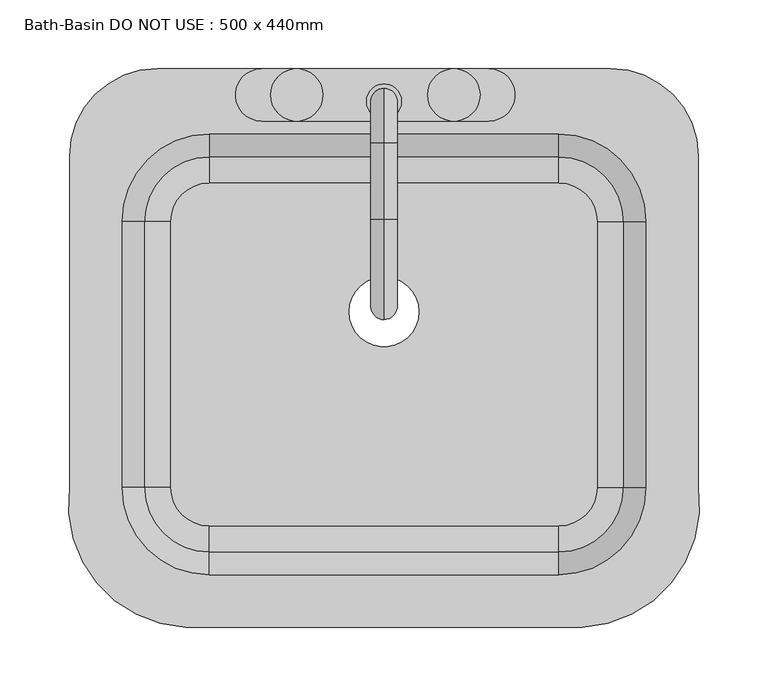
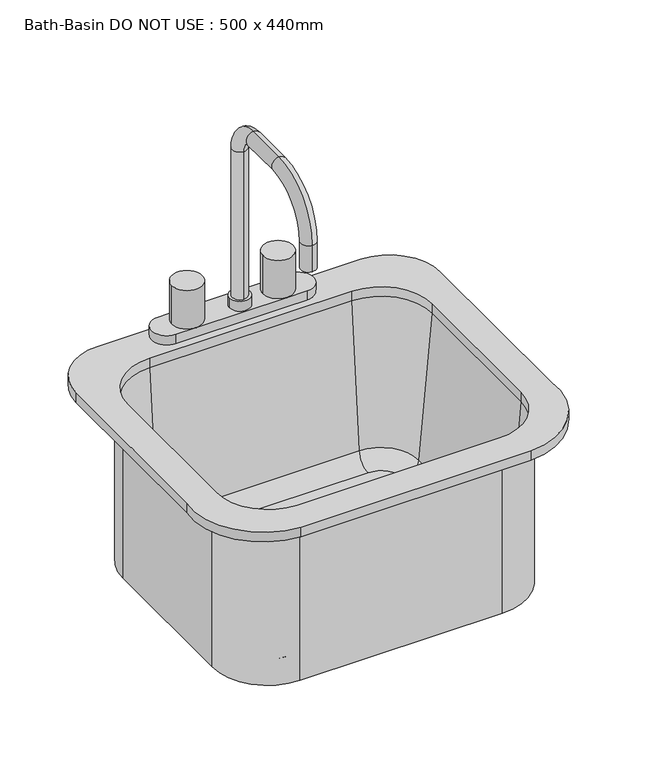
"""IFC4 building model written with IfcOpenShell, lengths in millimetres: flow terminal geometry, Bath-Basin DO NOT USE : 500 x 440mm."""

from ifc_helpers import new_model, si_unit, point, frame, origin, place, context, project, spatial, polyline, circle_curve, ellipse_curve, trimmed, source, transform, mapped, element, save
from ifc_brep_helpers import plane_surface, cylinder_surface, revolved_surface, advanced_brep


def bath_basin_do_not_use_500_x_440mm_69736ad6(model_context):
    return source(origin(), model_context, "Body", "AdvancedBrep", [
        advanced_brep(
        [(212.5392406, 69.0204011, 546.1), (142.6892406, 138.8704011, 546.1), (142.6892406, 138.8704011, 762.0), (212.5392406, 69.0204011, 762.0), (212.5392406, -124.6545989, 546.1), (142.6892406, -194.5045989, 546.1), (-111.3107595, -194.5045989, 546.1), (-181.1607595, -124.6545989, 546.1), (-181.1607595, 69.0204011, 546.1), (-111.3107595, 138.8704011, 546.1), (-9.7107594, 3.175, 546.1), (41.0892406, 3.175, 546.1), (170.6776588, 69.0204011, 555.625), (142.6892406, 97.0088193, 555.625), (-111.3107595, 97.0088193, 555.625), (-139.2991777, 69.0204011, 555.625), (-139.2991777, -124.6545989, 555.625), (-111.3107595, -152.6430171, 555.625), (142.6892406, -152.6430171, 555.625), (170.6776588, -124.6545989, 555.625), (-9.7107594, 3.175, 555.625), (41.0892406, 3.175, 555.625), (189.6551678, 69.0204011, 573.0146831), (142.6892406, 115.9863283, 573.0146831), (206.1892406, 69.0204011, 762.0), (142.6892406, 132.5204011, 762.0), (212.5392406, -124.6545989, 762.0), (189.6551678, -124.6545989, 573.0146831), (206.1892406, -124.6545989, 762.0), (142.6892406, -194.5045989, 762.0), (142.6892406, -171.6205261, 573.0146831), (142.6892406, -188.1545989, 762.0), (-111.3107595, -194.5045989, 762.0), (-111.3107595, -171.6205261, 573.0146831), (-111.3107595, -188.1545989, 762.0), (-181.1607595, -124.6545989, 762.0), (-158.2766867, -124.6545989, 573.0146831), (-174.8107595, -124.6545989, 762.0), (-181.1607595, 69.0204011, 762.0), (-158.2766867, 69.0204011, 573.0146831), (-174.8107595, 69.0204011, 762.0), (-111.3107595, 138.8704011, 762.0), (-111.3107595, 115.9863283, 573.0146831), (-111.3107595, 132.5204011, 762.0), (-128.5606924, -226.2545989, 774.7), (159.9391735, -226.2545989, 774.7), (244.2892406, -124.6545989, 774.7), (244.2892406, 116.6454011, 774.7), (180.7892406, 180.1454011, 774.7), (-149.4107594, 180.1454011, 774.7), (-212.9107594, 116.6454011, 774.7), (-212.9107594, -124.6545982, 774.7), (142.6892406, 132.5204011, 774.7), (206.1892406, 69.0204011, 774.7), (206.1892406, -124.6545989, 774.7), (142.6892406, -188.1545989, 774.7), (-111.3107595, -188.1545989, 774.7), (-174.8107595, -124.6545989, 774.7), (-174.8107595, 69.0204011, 774.7), (-111.3107595, 132.5204011, 774.7), (-128.5606924, -226.2545989, 762.0), (-212.9107594, -124.6545982, 762.0), (-212.9107594, 116.6454011, 762.0), (-149.4107594, 180.1454011, 762.0), (180.7892406, 180.1454011, 762.0), (244.2892406, 116.6454011, 762.0), (244.2892406, -124.6545989, 762.0), (159.9391735, -226.2545989, 762.0)],
        [
            (0, 1, circle_curve(frame((142.6892406, 69.0204011, 546.1), z_axis=(0.0, 0.0, 1.0), x_axis=(0.0, 1.0, 0.0)), 69.85)),
            (1, 2),
            (2, 3, circle_curve(frame((142.6892406, 69.0204011, 762.0), z_axis=(0.0, 0.0, -1.0), x_axis=(0.0, 1.0, 0.0)), 69.85)),
            (3, 0),
            (0, 4),
            (4, 5, circle_curve(frame((142.6892406, -124.6545989, 546.1), z_axis=(0.0, 0.0, -1.0), x_axis=(1.0, 0.0, 0.0)), 69.85)),
            (5, 6),
            (6, 7, circle_curve(frame((-111.3107595, -124.6545989, 546.1), z_axis=(0.0, 0.0, -1.0), x_axis=(0.0, -1.0, 0.0)), 69.85)),
            (7, 8),
            (8, 9, circle_curve(frame((-111.3107595, 69.0204011, 546.1), z_axis=(0.0, 0.0, -1.0), x_axis=(-1.0, 0.0, 0.0)), 69.85)),
            (9, 1),
            (10, 11, circle_curve(frame((15.6892406, 3.175, 546.1), z_axis=(0.0, 0.0, 1.0), x_axis=(1.0, 0.0, 0.0)), 25.4)),
            (11, 10, circle_curve(frame((15.6892406, 3.175, 546.1), z_axis=(0.0, 0.0, 1.0), x_axis=(1.0, 0.0, 0.0)), 25.4)),
            (12, 13, circle_curve(frame((142.6892406, 69.0204011, 555.625), z_axis=(0.0, 0.0, 1.0), x_axis=(0.0, 1.0, 0.0)), 27.9884182)),
            (13, 14),
            (14, 15, circle_curve(frame((-111.3107595, 69.0204011, 555.625), z_axis=(0.0, 0.0, 1.0), x_axis=(-1.0, 0.0, 0.0)), 27.9884182)),
            (15, 16),
            (16, 17, circle_curve(frame((-111.3107595, -124.6545989, 555.625), z_axis=(0.0, 0.0, 1.0), x_axis=(0.0, -1.0, 0.0)), 27.9884182)),
            (17, 18),
            (18, 19, circle_curve(frame((142.6892406, -124.6545989, 555.625), z_axis=(0.0, 0.0, 1.0), x_axis=(1.0, 0.0, 0.0)), 27.9884182)),
            (19, 12),
            (20, 21, circle_curve(frame((15.6892406, 3.175, 555.625), z_axis=(0.0, 0.0, -1.0), x_axis=(1.0, 0.0, 0.0)), 25.4)),
            (21, 20, circle_curve(frame((15.6892406, 3.175, 555.625), z_axis=(0.0, 0.0, -1.0), x_axis=(1.0, 0.0, 0.0)), 25.4)),
            (12, 22, circle_curve(frame((170.6776588, 69.0204011, 574.675), z_axis=(0.0, -1.0, 0.0), x_axis=(1.0, 0.0, 0.0)), 19.05)),
            (22, 23, circle_curve(frame((142.6892406, 69.0204011, 573.0146831), z_axis=(0.0, 0.0, 1.0), x_axis=(0.0, 1.0, 0.0)), 46.9659272)),
            (23, 13, circle_curve(frame((142.6892406, 97.0088193, 574.675), z_axis=(-1.0, 0.0, 0.0), x_axis=(0.0, 1.0, 0.0)), 19.05)),
            (22, 24),
            (24, 25, circle_curve(frame((142.6892406, 69.0204011, 762.0), z_axis=(0.0, 0.0, 1.0), x_axis=(0.0, 1.0, 0.0)), 63.5)),
            (25, 23),
            (3, 26),
            (26, 4),
            (19, 27, circle_curve(frame((170.6776588, -124.6545989, 574.675), z_axis=(0.0, -1.0, 0.0), x_axis=(1.0, 0.0, 0.0)), 19.05)),
            (27, 22),
            (27, 28),
            (28, 24),
            (26, 29, circle_curve(frame((142.6892406, -124.6545989, 762.0), z_axis=(0.0, 0.0, -1.0), x_axis=(1.0, 0.0, 0.0)), 69.85)),
            (29, 5),
            (18, 30, circle_curve(frame((142.6892406, -152.6430171, 574.675), z_axis=(-1.0, 0.0, 0.0), x_axis=(0.0, -1.0, 0.0)), 19.05)),
            (30, 27, circle_curve(frame((142.6892406, -124.6545989, 573.0146831), z_axis=(0.0, 0.0, 1.0), x_axis=(1.0, 0.0, 0.0)), 46.9659272)),
            (30, 31),
            (31, 28, circle_curve(frame((142.6892406, -124.6545989, 762.0), z_axis=(0.0, 0.0, 1.0), x_axis=(1.0, 0.0, 0.0)), 63.5)),
            (29, 32),
            (32, 6),
            (17, 33, circle_curve(frame((-111.3107595, -152.6430171, 574.675), z_axis=(-1.0, 0.0, 0.0), x_axis=(0.0, -1.0, 0.0)), 19.05)),
            (33, 30),
            (33, 34),
            (34, 31),
            (32, 35, circle_curve(frame((-111.3107595, -124.6545989, 762.0), z_axis=(0.0, 0.0, -1.0), x_axis=(0.0, -1.0, 0.0)), 69.85)),
            (35, 7),
            (16, 36, circle_curve(frame((-139.2991777, -124.6545989, 574.675), z_axis=(0.0, 1.0, 0.0), x_axis=(-1.0, 0.0, 0.0)), 19.05)),
            (36, 33, circle_curve(frame((-111.3107595, -124.6545989, 573.0146831), z_axis=(0.0, 0.0, 1.0), x_axis=(0.0, -1.0, 0.0)), 46.9659272)),
            (36, 37),
            (37, 34, circle_curve(frame((-111.3107595, -124.6545989, 762.0), z_axis=(0.0, 0.0, 1.0), x_axis=(0.0, -1.0, 0.0)), 63.5)),
            (35, 38),
            (38, 8),
            (15, 39, circle_curve(frame((-139.2991777, 69.0204011, 574.675), z_axis=(0.0, 1.0, 0.0), x_axis=(-1.0, 0.0, 0.0)), 19.05)),
            (39, 36),
            (39, 40),
            (40, 37),
            (38, 41, circle_curve(frame((-111.3107595, 69.0204011, 762.0), z_axis=(0.0, 0.0, -1.0), x_axis=(-1.0, 0.0, 0.0)), 69.85)),
            (41, 9),
            (14, 42, circle_curve(frame((-111.3107595, 97.0088193, 574.675), z_axis=(1.0, 0.0, 0.0), x_axis=(0.0, 1.0, 0.0)), 19.05)),
            (42, 39, circle_curve(frame((-111.3107595, 69.0204011, 573.0146831), z_axis=(0.0, 0.0, 1.0), x_axis=(-1.0, 0.0, 0.0)), 46.9659272)),
            (42, 43),
            (43, 40, circle_curve(frame((-111.3107595, 69.0204011, 762.0), z_axis=(0.0, 0.0, 1.0), x_axis=(-1.0, 0.0, 0.0)), 63.5)),
            (41, 2),
            (23, 42),
            (25, 43),
            (20, 10),
            (11, 21),
            (44, 45),
            (45, 46, circle_curve(frame((156.1319558, -137.2793432, 774.7), z_axis=(0.0, 0.0, 1.0), x_axis=(1.0, 0.0, 0.0)), 89.0566732)),
            (46, 47),
            (47, 48, circle_curve(frame((180.7892406, 116.6454011, 774.7), z_axis=(0.0, 0.0, 1.0), x_axis=(1.0, 0.0, 0.0)), 63.5)),
            (48, 49),
            (49, 50, circle_curve(frame((-149.4107594, 116.6454011, 774.7), z_axis=(0.0, 0.0, 1.0), x_axis=(1.0, 0.0, 0.0)), 63.5)),
            (50, 51),
            (51, 44, circle_curve(frame((-124.7534746, -137.2793432, 774.7), z_axis=(0.0, 0.0, 1.0), x_axis=(1.0, 0.0, 0.0)), 89.0566732)),
            (52, 53, circle_curve(frame((142.6892406, 69.0204011, 774.7), z_axis=(0.0, 0.0, -1.0), x_axis=(1.0, 0.0, 0.0)), 63.5)),
            (53, 54),
            (54, 55, circle_curve(frame((142.6892406, -124.6545989, 774.7), z_axis=(0.0, 0.0, -1.0), x_axis=(1.0, 0.0, 0.0)), 63.5)),
            (55, 56),
            (56, 57, circle_curve(frame((-111.3107595, -124.6545989, 774.7), z_axis=(0.0, 0.0, -1.0), x_axis=(1.0, 0.0, 0.0)), 63.5)),
            (57, 58),
            (58, 59, circle_curve(frame((-111.3107595, 69.0204011, 774.7), z_axis=(0.0, 0.0, -1.0), x_axis=(1.0, 0.0, 0.0)), 63.5)),
            (59, 52),
            (60, 61, circle_curve(frame((-124.7534746, -137.2793432, 762.0), z_axis=(0.0, 0.0, -1.0), x_axis=(1.0, 0.0, 0.0)), 89.0566732)),
            (61, 62),
            (62, 63, circle_curve(frame((-149.4107594, 116.6454011, 762.0), z_axis=(0.0, 0.0, -1.0), x_axis=(1.0, 0.0, 0.0)), 63.5)),
            (63, 64),
            (64, 65, circle_curve(frame((180.7892406, 116.6454011, 762.0), z_axis=(0.0, 0.0, -1.0), x_axis=(1.0, 0.0, 0.0)), 63.5)),
            (65, 66),
            (66, 67, circle_curve(frame((156.1319558, -137.2793432, 762.0), z_axis=(0.0, 0.0, -1.0), x_axis=(1.0, 0.0, 0.0)), 89.0566732)),
            (67, 60),
            (44, 60),
            (67, 45),
            (66, 46),
            (65, 47),
            (64, 48),
            (63, 49),
            (62, 50),
            (61, 51),
            (52, 25),
            (24, 53),
            (28, 54),
            (31, 55),
            (34, 56),
            (37, 57),
            (40, 58),
            (43, 59),
        ],
        [
            cylinder_surface(frame((142.6892406, 69.0204011, 0.0), z_axis=(0.0, 0.0, -1.0), x_axis=(0.0, 1.0, 0.0)), 69.85),
            plane_surface(frame((142.6892406, 69.0204011, 546.1), z_axis=(0.0, 0.0, -1.0), x_axis=(0.0, 1.0, 0.0))),
            plane_surface(frame((142.6892406, 69.0204011, 555.625), z_axis=(0.0, 0.0, 1.0), x_axis=(0.0, 1.0, 0.0))),
            revolved_surface(trimmed(ellipse_curve(frame((142.6892406, 97.0088193, 574.675), z_axis=(1.0, 0.0, 0.0), x_axis=(0.0, 1.0, 0.0)), 19.05, 19.05), [point((142.6892406, 97.0088193, 555.625))], [point((142.6892406, 115.9863283, 573.0146831))], True, "CARTESIAN"), (142.6892406, 69.0204011, 0.0), (0.0, 0.0, -1.0)),
            revolved_surface(polyline([(142.6892406, 115.9863283, 573.0146831), (142.6892406, 132.5204011, 762.0)]), (142.6892406, 69.0204011, 0.0), (0.0, 0.0, -1.0)),
            plane_surface(frame((212.5392406, 69.0204011, 762.0), z_axis=(1.0, 0.0, 0.0), x_axis=(0.0, -1.0, 0.0))),
            revolved_surface(polyline([(189.7276588, -124.65459890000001, 574.675), (189.7276588, 69.0204011, 574.675)]), (170.6776588, 69.0204011, 574.675), (0.0, -1.0, 0.0)),
            plane_surface(frame((189.6551678, 69.0204011, 573.0146831), z_axis=(-0.9961946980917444, 0.0, 0.08715574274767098), x_axis=(0.0, -1.0, 0.0))),
            cylinder_surface(frame((142.6892406, -124.6545989, 0.0), z_axis=(0.0, 0.0, -1.0), x_axis=(1.0, 0.0, 0.0)), 69.85),
            revolved_surface(trimmed(ellipse_curve(frame((170.6776588, -124.6545989, 574.675), z_axis=(0.0, -1.0, 0.0), x_axis=(1.0, 0.0, 0.0)), 19.05, 19.05), [point((170.6776588, -124.6545989, 555.625))], [point((189.6551678, -124.6545989, 573.0146831))], True, "CARTESIAN"), (142.6892406, -124.6545989, 0.0), (0.0, 0.0, -1.0)),
            revolved_surface(polyline([(189.6551678, -124.6545989, 573.0146831), (206.1892406, -124.6545989, 762.0)]), (142.6892406, -124.6545989, 0.0), (0.0, 0.0, -1.0)),
            plane_surface(frame((142.6892406, -194.5045989, 762.0), z_axis=(0.0, -1.0, 0.0), x_axis=(-1.0, 0.0, 0.0))),
            revolved_surface(polyline([(-111.31075950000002, -171.69301710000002, 574.675), (142.6892406, -171.69301710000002, 574.675)]), (142.6892406, -152.6430171, 574.675), (-1.0, 0.0, 0.0)),
            plane_surface(frame((142.6892406, -171.6205261, 573.0146831), z_axis=(0.0, 0.9961946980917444, 0.08715574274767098), x_axis=(-1.0, 0.0, 0.0))),
            cylinder_surface(frame((-111.3107595, -124.6545989, 0.0), z_axis=(0.0, 0.0, -1.0), x_axis=(0.0, -1.0, 0.0)), 69.85),
            revolved_surface(trimmed(ellipse_curve(frame((-111.3107595, -152.6430171, 574.675), z_axis=(-1.0, 0.0, 0.0), x_axis=(0.0, -1.0, 0.0)), 19.05, 19.05), [point((-111.3107595, -152.6430171, 555.625))], [point((-111.3107595, -171.6205261, 573.0146831))], True, "CARTESIAN"), (-111.3107595, -124.6545989, 0.0), (0.0, 0.0, -1.0)),
            revolved_surface(polyline([(-111.3107595, -171.6205261, 573.0146831), (-111.3107595, -188.1545989, 762.0)]), (-111.3107595, -124.6545989, 0.0), (0.0, 0.0, -1.0)),
            plane_surface(frame((-181.1607595, -124.6545989, 762.0), z_axis=(-1.0, 0.0, 0.0), x_axis=(0.0, 1.0, 0.0))),
            revolved_surface(polyline([(-158.3491777, 69.02040110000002, 574.675), (-158.3491777, -124.6545989, 574.675)]), (-139.2991777, -124.6545989, 574.675), (0.0, 1.0, 0.0)),
            plane_surface(frame((-158.2766867, -124.6545989, 573.0146831), z_axis=(0.9961946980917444, 0.0, 0.08715574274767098), x_axis=(0.0, 1.0, 0.0))),
            cylinder_surface(frame((-111.3107595, 69.0204011, 0.0), z_axis=(0.0, 0.0, -1.0), x_axis=(-1.0, 0.0, 0.0)), 69.85),
            revolved_surface(trimmed(ellipse_curve(frame((-139.2991777, 69.0204011, 574.675), z_axis=(0.0, 1.0, 0.0), x_axis=(-1.0, 0.0, 0.0)), 19.05, 19.05), [point((-139.2991777, 69.0204011, 555.625))], [point((-158.2766867, 69.0204011, 573.0146831))], True, "CARTESIAN"), (-111.3107595, 69.0204011, 0.0), (0.0, 0.0, -1.0)),
            revolved_surface(polyline([(-158.2766867, 69.0204011, 573.0146831), (-174.8107595, 69.0204011, 762.0)]), (-111.3107595, 69.0204011, 0.0), (0.0, 0.0, -1.0)),
            plane_surface(frame((-111.3107595, 138.8704011, 762.0), z_axis=(0.0, 1.0, 0.0), x_axis=(1.0, 0.0, 0.0))),
            revolved_surface(polyline([(142.6892406, 116.0588193, 574.675), (-111.3107595, 116.0588193, 574.675)]), (-111.3107595, 97.0088193, 574.675), (1.0, 0.0, 0.0)),
            plane_surface(frame((-111.3107595, 115.9863283, 573.0146831), z_axis=(0.0, -0.9961946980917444, 0.08715574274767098), x_axis=(1.0, 0.0, 0.0))),
            revolved_surface(polyline([(41.0892406, 3.175, 546.1), (41.0892406, 3.175, 555.625)]), (15.6892406, 3.175, 0.0), (0.0, 0.0, -1.0)),
            plane_surface(frame((159.9391735, -226.2545989, 774.7), z_axis=(0.0, 0.0, 1.0), x_axis=(1.0, 0.0, 0.0))),
            plane_surface(frame((159.9391735, -226.2545989, 762.0), z_axis=(0.0, 0.0, -1.0), x_axis=(-1.0, 0.0, 0.0))),
            plane_surface(frame((-128.5606924, -226.2545989, 774.7), z_axis=(0.0, -1.0, 0.0), x_axis=(0.0, 0.0, -1.0))),
            cylinder_surface(frame((156.1319558, -137.2793432, 762.0), z_axis=(0.0, 0.0, 1.0), x_axis=(1.0, 0.0, 0.0)), 89.0566732),
            plane_surface(frame((244.2892406, -124.6545989, 774.7), z_axis=(1.0, 0.0, 0.0), x_axis=(0.0, 0.0, -1.0))),
            cylinder_surface(frame((180.7892406, 116.6454011, 762.0), z_axis=(0.0, 0.0, 1.0), x_axis=(1.0, 0.0, 0.0)), 63.5),
            plane_surface(frame((180.7892406, 180.1454011, 774.7), z_axis=(0.0, 1.0, 0.0), x_axis=(0.0, 0.0, -1.0))),
            cylinder_surface(frame((-149.4107594, 116.6454011, 762.0), z_axis=(0.0, 0.0, 1.0), x_axis=(1.0, 0.0, 0.0)), 63.5),
            plane_surface(frame((-212.9107594, 116.6454011, 774.7), z_axis=(-1.0, 0.0, 0.0), x_axis=(0.0, 0.0, -1.0))),
            cylinder_surface(frame((-124.7534746, -137.2793432, 762.0), z_axis=(0.0, 0.0, 1.0), x_axis=(1.0, 0.0, 0.0)), 89.0566732),
            revolved_surface(polyline([(206.1892406, 69.0204011, 762.0), (206.1892406, 69.0204011, 774.7)]), (142.6892406, 69.0204011, 0.0), (0.0, 0.0, -1.0)),
            plane_surface(frame((206.1892406, 69.0204011, 774.7), z_axis=(-1.0, 0.0, 0.0), x_axis=(0.0, 0.0, -1.0))),
            revolved_surface(polyline([(206.1892406, -124.6545989, 762.0), (206.1892406, -124.6545989, 774.7)]), (142.6892406, -124.6545989, 0.0), (0.0, 0.0, -1.0)),
            plane_surface(frame((142.6892406, -188.1545989, 774.7), z_axis=(0.0, 1.0, 0.0), x_axis=(0.0, 0.0, -1.0))),
            revolved_surface(polyline([(-47.8107595, -124.6545989, 762.0), (-47.8107595, -124.6545989, 774.7)]), (-111.3107595, -124.6545989, 0.0), (0.0, 0.0, -1.0)),
            plane_surface(frame((-174.8107595, -124.6545989, 774.7), z_axis=(1.0, 0.0, 0.0), x_axis=(0.0, 0.0, -1.0))),
            revolved_surface(polyline([(-47.8107595, 69.0204011, 762.0), (-47.8107595, 69.0204011, 774.7)]), (-111.3107595, 69.0204011, 0.0), (0.0, 0.0, -1.0)),
            plane_surface(frame((-111.3107595, 132.5204011, 774.7), z_axis=(0.0, -1.0, 0.0), x_axis=(0.0, 0.0, -1.0))),
        ],
        [
            (0, [[1, 2, 3, 4]]),
            (1, [[-1, 5, 6, 7, 8, 9, 10, 11], [12, 13]]),
            (2, [[14, 15, 16, 17, 18, 19, 20, 21], [22, 23]]),
            (3, [[-14, 24, 25, 26]]),
            (4, [[-25, 27, 28, 29]]),
            (5, [[-4, 30, 31, -5]]),
            (6, [[-24, -21, 32, 33]]),
            (7, [[-27, -33, 34, 35]]),
            (8, [[-31, 36, 37, -6]]),
            (9, [[-32, -20, 38, 39]]),
            (10, [[-34, -39, 40, 41]]),
            (11, [[-37, 42, 43, -7]]),
            (12, [[-38, -19, 44, 45]]),
            (13, [[-40, -45, 46, 47]]),
            (14, [[-43, 48, 49, -8]]),
            (15, [[-44, -18, 50, 51]]),
            (16, [[-46, -51, 52, 53]]),
            (17, [[-49, 54, 55, -9]]),
            (18, [[-50, -17, 56, 57]]),
            (19, [[-52, -57, 58, 59]]),
            (20, [[-55, 60, 61, -10]]),
            (21, [[-56, -16, 62, 63]]),
            (22, [[-58, -63, 64, 65]]),
            (23, [[-2, -11, -61, 66]]),
            (24, [[-26, 67, -62, -15]]),
            (25, [[-29, 68, -64, -67]]),
            (26, [[-22, 69, -13, 70]]),
            (26, [[-23, -70, -12, -69]]),
            (27, [[71, 72, 73, 74, 75, 76, 77, 78], [79, 80, 81, 82, 83, 84, 85, 86]]),
            (28, [[87, 88, 89, 90, 91, 92, 93, 94], [-3, -66, -60, -54, -48, -42, -36, -30]]),
            (29, [[-71, 95, -94, 96]]),
            (30, [[-72, -96, -93, 97]]),
            (31, [[-73, -97, -92, 98]]),
            (32, [[-74, -98, -91, 99]]),
            (33, [[-75, -99, -90, 100]]),
            (34, [[-76, -100, -89, 101]]),
            (35, [[-77, -101, -88, 102]]),
            (36, [[-78, -102, -87, -95]]),
            (37, [[-79, 103, -28, 104]]),
            (38, [[-80, -104, -35, 105]]),
            (39, [[-81, -105, -41, 106]]),
            (40, [[-82, -106, -47, 107]]),
            (41, [[-83, -107, -53, 108]]),
            (42, [[-84, -108, -59, 109]]),
            (43, [[-85, -109, -65, 110]]),
            (44, [[-86, -110, -68, -103]]),
        ],
    ),
        advanced_brep(
        [(91.8892406, 180.1454011, 774.7), (91.8892406, 142.0454011, 774.7), (66.4892406, 142.0454011, 774.7), (-47.8107594, 142.0454011, 774.7), (-73.2107594, 142.0454011, 774.7), (-73.2107594, 180.1454011, 774.7), (-47.8107594, 180.1454011, 774.7), (66.4892406, 180.1454011, 774.7), (15.6892406, 165.8579011, 995.3625), (15.6892406, 146.8079011, 995.3625), (15.6892406, 146.8079011, 800.1), (15.6892406, 165.8579011, 800.1), (15.6892406, 126.1704011, 1035.05), (15.6892406, 126.1704011, 1016.0), (15.6892406, 70.6079011, 1035.05), (15.6892406, 70.6079011, 1016.0), (15.6892406, -2.4170989, 962.025), (15.6892406, 16.6329011, 962.025), (15.6892406, -2.4170989, 927.1), (15.6892406, 16.6329011, 927.1), (2.9892406, 156.3329011, 800.1), (28.3892406, 156.3329011, 800.1), (2.9892406, 156.3329011, 787.2), (28.3892406, 156.3329011, 787.2), (-73.2107594, 180.1454011, 787.2), (-73.2107594, 142.0454011, 787.2), (-47.8107594, 142.0454011, 787.2), (-66.8607594, 161.0954011, 787.2), (-47.8107594, 180.1454011, 787.2), (91.8892406, 142.0454011, 787.2), (91.8892406, 180.1454011, 787.2), (66.4892406, 180.1454011, 787.2), (85.5392406, 161.0954011, 787.2), (66.4892406, 142.0454011, 787.2), (-28.7607594, 161.0954011, 787.2), (47.4392406, 161.0954011, 787.2), (-66.8607594, 161.0954011, 838.2), (-28.7607594, 161.0954011, 838.2), (47.4392406, 161.0954011, 838.2), (85.5392406, 161.0954011, 838.2)],
        [
            (0, 1, circle_curve(frame((91.8892406, 161.0954011, 774.7), z_axis=(0.0, 0.0, -1.0), x_axis=(1.0, 0.0, 0.0)), 19.05)),
            (1, 2),
            (2, 3),
            (3, 4),
            (4, 5, circle_curve(frame((-73.2107594, 161.0954011, 774.7), z_axis=(0.0, 0.0, -1.0), x_axis=(1.0, 0.0, 0.0)), 19.05)),
            (5, 6),
            (6, 7),
            (7, 0),
            (8, 9, circle_curve(frame((15.6892406, 156.3329011, 995.3625), z_axis=(0.0, 0.0, -1.0), x_axis=(0.0, -1.0, 0.0)), 9.525)),
            (9, 10),
            (10, 11, circle_curve(frame((15.6892406, 156.3329011, 800.1), z_axis=(0.0, 0.0, 1.0), x_axis=(0.0, -1.0, 0.0)), 9.525)),
            (11, 8),
            (9, 8, circle_curve(frame((15.6892406, 156.3329011, 995.3625), z_axis=(0.0, 0.0, -1.0), x_axis=(0.0, -1.0, 0.0)), 9.525)),
            (11, 10, circle_curve(frame((15.6892406, 156.3329011, 800.1), z_axis=(0.0, 0.0, 1.0), x_axis=(0.0, -1.0, 0.0)), 9.525)),
            (8, 12, circle_curve(frame((15.6892406, 126.1704011, 995.3625), z_axis=(1.0, 0.0, 0.0), x_axis=(0.0, 1.0, 0.0)), 39.6875)),
            (12, 13, circle_curve(frame((15.6892406, 126.1704011, 1025.525), z_axis=(0.0, 1.0, 0.0), x_axis=(0.0, 0.0, -1.0)), 9.525)),
            (13, 9, circle_curve(frame((15.6892406, 126.1704011, 995.3625), z_axis=(-1.0, 0.0, 0.0), x_axis=(0.0, 1.0, 0.0)), 20.6375)),
            (13, 12, circle_curve(frame((15.6892406, 126.1704011, 1025.525), z_axis=(0.0, 1.0, 0.0), x_axis=(0.0, 0.0, -1.0)), 9.525)),
            (12, 14),
            (14, 15, circle_curve(frame((15.6892406, 70.6079011, 1025.525), z_axis=(0.0, 1.0, 0.0), x_axis=(0.0, 0.0, -1.0)), 9.525)),
            (15, 13),
            (15, 14, circle_curve(frame((15.6892406, 70.6079011, 1025.525), z_axis=(0.0, 1.0, 0.0), x_axis=(0.0, 0.0, -1.0)), 9.525)),
            (14, 16, circle_curve(frame((15.6892406, 70.6079011, 962.025), z_axis=(1.0, 0.0, 0.0), x_axis=(0.0, 0.0, 1.0)), 73.025)),
            (16, 17, circle_curve(frame((15.6892406, 7.1079011, 962.025), z_axis=(0.0, 0.0, 1.0), x_axis=(0.0, 1.0, 0.0)), 9.525)),
            (17, 15, circle_curve(frame((15.6892406, 70.6079011, 962.025), z_axis=(-1.0, 0.0, 0.0), x_axis=(0.0, 0.0, 1.0)), 53.975)),
            (17, 16, circle_curve(frame((15.6892406, 7.1079011, 962.025), z_axis=(0.0, 0.0, 1.0), x_axis=(0.0, 1.0, 0.0)), 9.525)),
            (18, 19, circle_curve(frame((15.6892406, 7.1079011, 927.1), z_axis=(0.0, 0.0, -1.0), x_axis=(0.0, 1.0, 0.0)), 9.525)),
            (19, 18, circle_curve(frame((15.6892406, 7.1079011, 927.1), z_axis=(0.0, 0.0, -1.0), x_axis=(0.0, 1.0, 0.0)), 9.525)),
            (16, 18),
            (19, 17),
            (20, 21, circle_curve(frame((15.6892406, 156.3329011, 800.1), z_axis=(0.0, 0.0, 1.0), x_axis=(1.0, 0.0, 0.0)), 12.7)),
            (21, 20, circle_curve(frame((15.6892406, 156.3329011, 800.1), z_axis=(0.0, 0.0, 1.0), x_axis=(1.0, 0.0, 0.0)), 12.7)),
            (20, 22),
            (22, 23, circle_curve(frame((15.6892406, 156.3329011, 787.2), z_axis=(0.0, 0.0, 1.0), x_axis=(1.0, 0.0, 0.0)), 12.7)),
            (23, 21),
            (23, 22, circle_curve(frame((15.6892406, 156.3329011, 787.2), z_axis=(0.0, 0.0, 1.0), x_axis=(1.0, 0.0, 0.0)), 12.7)),
            (24, 25, circle_curve(frame((-73.2107594, 161.0954011, 787.2), z_axis=(0.0, 0.0, 1.0), x_axis=(1.0, 0.0, 0.0)), 19.05)),
            (25, 26),
            (26, 27, circle_curve(frame((-47.8107594, 161.0954011, 787.2), z_axis=(0.0, 0.0, -1.0), x_axis=(1.0, 0.0, 0.0)), 19.05)),
            (27, 28, circle_curve(frame((-47.8107594, 161.0954011, 787.2), z_axis=(0.0, 0.0, -1.0), x_axis=(1.0, 0.0, 0.0)), 19.05)),
            (28, 24),
            (29, 30, circle_curve(frame((91.8892406, 161.0954011, 787.2), z_axis=(0.0, 0.0, 1.0), x_axis=(1.0, 0.0, 0.0)), 19.05)),
            (30, 31),
            (31, 32, circle_curve(frame((66.4892406, 161.0954011, 787.2), z_axis=(0.0, 0.0, -1.0), x_axis=(1.0, 0.0, 0.0)), 19.05)),
            (32, 33, circle_curve(frame((66.4892406, 161.0954011, 787.2), z_axis=(0.0, 0.0, -1.0), x_axis=(1.0, 0.0, 0.0)), 19.05)),
            (33, 29),
            (31, 28),
            (28, 34, circle_curve(frame((-47.8107594, 161.0954011, 787.2), z_axis=(0.0, 0.0, -1.0), x_axis=(1.0, 0.0, 0.0)), 19.05)),
            (34, 26, circle_curve(frame((-47.8107594, 161.0954011, 787.2), z_axis=(0.0, 0.0, -1.0), x_axis=(1.0, 0.0, 0.0)), 19.05)),
            (26, 33),
            (33, 35, circle_curve(frame((66.4892406, 161.0954011, 787.2), z_axis=(0.0, 0.0, -1.0), x_axis=(1.0, 0.0, 0.0)), 19.05)),
            (35, 31, circle_curve(frame((66.4892406, 161.0954011, 787.2), z_axis=(0.0, 0.0, -1.0), x_axis=(1.0, 0.0, 0.0)), 19.05)),
            (30, 0),
            (5, 24),
            (4, 25),
            (1, 29),
            (36, 37, circle_curve(frame((-47.8107594, 161.0954011, 838.2), z_axis=(0.0, 0.0, 1.0), x_axis=(1.0, 0.0, 0.0)), 19.05)),
            (37, 36, circle_curve(frame((-47.8107594, 161.0954011, 838.2), z_axis=(0.0, 0.0, 1.0), x_axis=(1.0, 0.0, 0.0)), 19.05)),
            (38, 39, circle_curve(frame((66.4892406, 161.0954011, 838.2), z_axis=(0.0, 0.0, 1.0), x_axis=(1.0, 0.0, 0.0)), 19.05)),
            (39, 38, circle_curve(frame((66.4892406, 161.0954011, 838.2), z_axis=(0.0, 0.0, 1.0), x_axis=(1.0, 0.0, 0.0)), 19.05)),
            (36, 27),
            (34, 37),
            (38, 35),
            (32, 39),
        ],
        [
            plane_surface(frame((15.6892406, 146.8079011, 774.7), z_axis=(0.0, 0.0, -1.0), x_axis=(1.0, 0.0, 0.0))),
            cylinder_surface(frame((15.6892406, 156.3329011, 774.7), z_axis=(0.0, 0.0, -1.0), x_axis=(0.0, -1.0, 0.0)), 9.525),
            revolved_surface(trimmed(ellipse_curve(frame((15.6892406, 156.3329011, 995.3625), z_axis=(0.0, 0.0, -1.0), x_axis=(0.0, -1.0, 0.0)), 9.525, 9.525), [point((15.6892406, 165.8579011, 995.3625))], [point((15.6892406, 146.8079011, 995.3625))], True, "CARTESIAN"), (15.6892406, 126.1704011, 995.3625), (1.0, 0.0, 0.0)),
            revolved_surface(trimmed(ellipse_curve(frame((15.6892406, 156.3329011, 995.3625), z_axis=(0.0, 0.0, -1.0), x_axis=(0.0, -1.0, 0.0)), 9.525, 9.525), [point((15.6892406, 146.8079011, 995.3625))], [point((15.6892406, 165.8579011, 995.3625))], True, "CARTESIAN"), (15.6892406, 126.1704011, 995.3625), (1.0, 0.0, 0.0)),
            cylinder_surface(frame((15.6892406, 126.1704011, 1025.525), z_axis=(0.0, 1.0, 0.0), x_axis=(0.0, 0.0, -1.0)), 9.525),
            revolved_surface(trimmed(ellipse_curve(frame((15.6892406, 70.6079011, 1025.525), z_axis=(0.0, 1.0, 0.0), x_axis=(0.0, 0.0, -1.0)), 9.525, 9.525), [point((15.6892406, 70.6079011, 1035.05))], [point((15.6892406, 70.6079011, 1016.0))], True, "CARTESIAN"), (15.6892406, 70.6079011, 962.025), (1.0, 0.0, 0.0)),
            revolved_surface(trimmed(ellipse_curve(frame((15.6892406, 70.6079011, 1025.525), z_axis=(0.0, 1.0, 0.0), x_axis=(0.0, 0.0, -1.0)), 9.525, 9.525), [point((15.6892406, 70.6079011, 1016.0))], [point((15.6892406, 70.6079011, 1035.05))], True, "CARTESIAN"), (15.6892406, 70.6079011, 962.025), (1.0, 0.0, 0.0)),
            plane_surface(frame((15.6892406, -2.4170989, 927.1), z_axis=(0.0, 0.0, -1.0), x_axis=(-1.0, 0.0, 0.0))),
            cylinder_surface(frame((15.6892406, 7.1079011, 962.025), z_axis=(0.0, 0.0, 1.0), x_axis=(0.0, 1.0, 0.0)), 9.525),
            plane_surface(frame((28.3892406, 156.3329011, 800.1), z_axis=(0.0, 0.0, 1.0), x_axis=(0.0, 1.0, 0.0))),
            cylinder_surface(frame((15.6892406, 156.3329011, 774.7), z_axis=(0.0, 0.0, 1.0), x_axis=(1.0, 0.0, 0.0)), 12.7),
            plane_surface(frame((-73.2107594, 180.1454011, 787.2), z_axis=(0.0, 0.0, 1.0), x_axis=(-1.0, 0.0, 0.0))),
            plane_surface(frame((91.8892406, 180.1454011, 787.2), z_axis=(0.0, 1.0, 0.0), x_axis=(0.0, 0.0, -1.0))),
            cylinder_surface(frame((-73.2107594, 161.0954011, 774.7), z_axis=(0.0, 0.0, 1.0), x_axis=(1.0, 0.0, 0.0)), 19.05),
            plane_surface(frame((-73.2107594, 142.0454011, 787.2), z_axis=(0.0, -1.0, 0.0), x_axis=(0.0, 0.0, -1.0))),
            cylinder_surface(frame((91.8892406, 161.0954011, 774.7), z_axis=(0.0, 0.0, 1.0), x_axis=(1.0, 0.0, 0.0)), 19.05),
            plane_surface(frame((-28.7607594, 161.0954011, 838.2), z_axis=(0.0, 0.0, 1.0), x_axis=(0.0, 1.0, 0.0))),
            cylinder_surface(frame((-47.8107594, 161.0954011, 774.7), z_axis=(0.0, 0.0, 1.0), x_axis=(1.0, 0.0, 0.0)), 19.05),
            cylinder_surface(frame((66.4892406, 161.0954011, 0.0), z_axis=(0.0, 0.0, 1.0), x_axis=(1.0, 0.0, 0.0)), 19.05),
        ],
        [
            (0, [[1, 2, 3, 4, 5, 6, 7, 8]]),
            (1, [[9, 10, 11, 12]]),
            (1, [[13, -12, 14, -10]]),
            (2, [[-9, 15, 16, 17]]),
            (3, [[-13, -17, 18, -15]]),
            (4, [[-16, 19, 20, 21]]),
            (4, [[-18, -21, 22, -19]]),
            (5, [[-20, 23, 24, 25]]),
            (6, [[-22, -25, 26, -23]]),
            (7, [[27, 28]]),
            (8, [[-24, 29, -28, 30]]),
            (8, [[-26, -30, -27, -29]]),
            (9, [[31, 32], [-11, -14]]),
            (10, [[-31, 33, 34, 35]]),
            (10, [[-32, -35, 36, -33]]),
            (11, [[37, 38, 39, 40, 41]]),
            (11, [[42, 43, 44, 45, 46]]),
            (11, [[47, 48, 49, 50, 51, 52], [-34, -36]]),
            (12, [[53, -8, -7, -6, 54, -41, -47, -43]]),
            (13, [[-37, -54, -5, 55]]),
            (14, [[-55, -4, -3, -2, 56, -46, -50, -38]]),
            (15, [[-42, -56, -1, -53]]),
            (16, [[57, 58]]),
            (16, [[59, 60]]),
            (17, [[-57, 61, -39, -49, 62]]),
            (17, [[-58, -62, -48, -40, -61]]),
            (18, [[-59, 63, -51, -45, 64]]),
            (18, [[-60, -64, -44, -52, -63]]),
        ],
    ),
    ])


if __name__ == "__main__":
    model = new_model("IFC4")
    model_context = context("Model", 3, world=origin())
    ifc_project = project(units=[si_unit("LENGTHUNIT", "METRE", prefix="MILLI")], contexts=[model_context])
    site = spatial("IfcSite", under=ifc_project)
    building = spatial("IfcBuilding", under=site)
    placement = place(None, origin())
    bath_basin_do_not_use_500_x_440mm_shape = bath_basin_do_not_use_500_x_440mm_69736ad6(model_context)
    element("IfcFlowTerminal", 1, ObjectType="Bath-Basin DO NOT USE : 500 x 440mm", at=placement, inside=building, context=model_context, shape_type="MappedRepresentation", body=[
        mapped(bath_basin_do_not_use_500_x_440mm_shape, transform((0.0, 0.0, 0.0), x_axis=(1.0, 0.0, 0.0), y_axis=(0.0, 1.0, 0.0), z_axis=(0.0, 0.0, 1.0))),
    ])
    save(model, "model.ifc")
